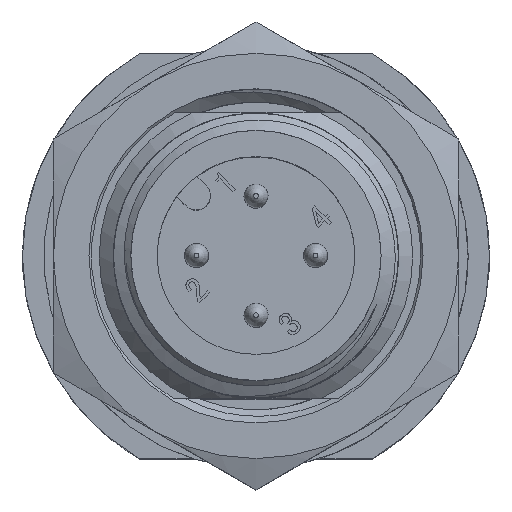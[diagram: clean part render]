
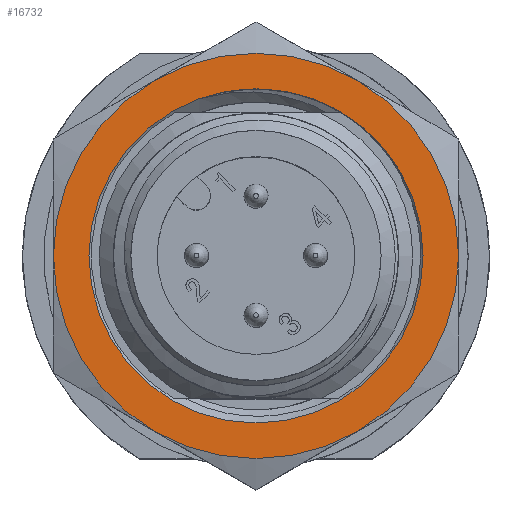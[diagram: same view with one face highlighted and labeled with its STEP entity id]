
A CAD part, top view. The second image highlights one B-rep face of the part: STEP entity #16732.
In plain terms, the highlighted planar face has unit normal (0, 0, 1).
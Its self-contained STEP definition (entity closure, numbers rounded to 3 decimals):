
#342 = VERTEX_POINT ( 'NONE', #20510 ) ;
#414 = CARTESIAN_POINT ( 'NONE',  ( -4.25, -7.361, -10.5 ) ) ;
#571 = CARTESIAN_POINT ( 'NONE',  ( 4.25, -7.361, -10.5 ) ) ;
#753 = VERTEX_POINT ( 'NONE', #19804 ) ;
#1132 = CIRCLE ( 'NONE', #9968, 8.5 ) ;
#1234 = CIRCLE ( 'NONE', #10083, 8.5 ) ;
#1335 = AXIS2_PLACEMENT_3D ( 'NONE', #18517, #6151, #18092 ) ;
#2012 = AXIS2_PLACEMENT_3D ( 'NONE', #19386, #21172, #7139 ) ;
#2560 = EDGE_CURVE ( 'NONE', #753, #753, #24298, .T. ) ;
#3165 = DIRECTION ( 'NONE',  ( 0., 0., 1. ) ) ;
#4128 = VERTEX_POINT ( 'NONE', #414 ) ;
#4637 = CARTESIAN_POINT ( 'NONE',  ( 8.5, 0., -10.5 ) ) ;
#4803 = VERTEX_POINT ( 'NONE', #4637 ) ;
#5499 = EDGE_CURVE ( 'NONE', #11777, #4128, #23270, .T. ) ;
#5837 = CARTESIAN_POINT ( 'NONE',  ( 0., 0., -10.5 ) ) ;
#6036 = FACE_BOUND ( 'NONE', #10875, .T. ) ;
#6151 = DIRECTION ( 'NONE',  ( 0., 0., 1. ) ) ;
#7139 = DIRECTION ( 'NONE',  ( 1., 0., 0. ) ) ;
#8051 = DIRECTION ( 'NONE',  ( 1., 0., 0. ) ) ;
#8225 = CARTESIAN_POINT ( 'NONE',  ( -8.5, 0., -10.5 ) ) ;
#9968 = AXIS2_PLACEMENT_3D ( 'NONE', #21695, #3165, #11471 ) ;
#10083 = AXIS2_PLACEMENT_3D ( 'NONE', #24481, #14322, #12357 ) ;
#10875 = EDGE_LOOP ( 'NONE', ( #18847 ) ) ;
#11006 = AXIS2_PLACEMENT_3D ( 'NONE', #26335, #11885, #18184 ) ;
#11471 = DIRECTION ( 'NONE',  ( 1., 0., 0. ) ) ;
#11505 = CIRCLE ( 'NONE', #1335, 8.5 ) ;
#11777 = VERTEX_POINT ( 'NONE', #8225 ) ;
#11885 = DIRECTION ( 'NONE',  ( 0., 0., 1. ) ) ;
#12171 = CARTESIAN_POINT ( 'NONE',  ( 0., 0., -10.5 ) ) ;
#12357 = DIRECTION ( 'NONE',  ( 1., 0., 0. ) ) ;
#13937 = CARTESIAN_POINT ( 'NONE',  ( 0., 0., -10.5 ) ) ;
#14262 = PLANE ( 'NONE',  #24724 ) ;
#14322 = DIRECTION ( 'NONE',  ( 0., 0., 1. ) ) ;
#14811 = AXIS2_PLACEMENT_3D ( 'NONE', #12171, #26545, #15978 ) ;
#15723 = ORIENTED_EDGE ( 'NONE', *, *, #17540, .T. ) ;
#15978 = DIRECTION ( 'NONE',  ( 1., 0., 0. ) ) ;
#16732 = ADVANCED_FACE ( 'NONE', ( #18940, #6036 ), #14262, .T. ) ;
#17313 = VERTEX_POINT ( 'NONE', #571 ) ;
#17378 = CARTESIAN_POINT ( 'NONE',  ( 4.25, 7.361, -10.5 ) ) ;
#17540 = EDGE_CURVE ( 'NONE', #4803, #26427, #1234, .T. ) ;
#18092 = DIRECTION ( 'NONE',  ( 1., 0., 0. ) ) ;
#18184 = DIRECTION ( 'NONE',  ( 1., 0., 0. ) ) ;
#18396 = ORIENTED_EDGE ( 'NONE', *, *, #22131, .T. ) ;
#18517 = CARTESIAN_POINT ( 'NONE',  ( 0., 0., -10.5 ) ) ;
#18847 = ORIENTED_EDGE ( 'NONE', *, *, #2560, .T. ) ;
#18940 = FACE_OUTER_BOUND ( 'NONE', #20309, .T. ) ;
#19386 = CARTESIAN_POINT ( 'NONE',  ( 0., 0., -10.5 ) ) ;
#19804 = CARTESIAN_POINT ( 'NONE',  ( 7.008, 0., -10.5 ) ) ;
#19815 = CIRCLE ( 'NONE', #14811, 8.5 ) ;
#20309 = EDGE_LOOP ( 'NONE', ( #26369, #15723, #24561, #18396, #20676, #23828 ) ) ;
#20510 = CARTESIAN_POINT ( 'NONE',  ( -4.25, 7.361, -10.5 ) ) ;
#20676 = ORIENTED_EDGE ( 'NONE', *, *, #5499, .T. ) ;
#21172 = DIRECTION ( 'NONE',  ( 0., 0., -1. ) ) ;
#21300 = EDGE_CURVE ( 'NONE', #26427, #342, #11505, .T. ) ;
#21695 = CARTESIAN_POINT ( 'NONE',  ( 0., 0., -10.5 ) ) ;
#22131 = EDGE_CURVE ( 'NONE', #342, #11777, #23012, .T. ) ;
#22311 = DIRECTION ( 'NONE',  ( 1., 0., 0. ) ) ;
#22358 = DIRECTION ( 'NONE',  ( 0., 0., 1. ) ) ;
#23012 = CIRCLE ( 'NONE', #11006, 8.5 ) ;
#23270 = CIRCLE ( 'NONE', #25554, 8.5 ) ;
#23828 = ORIENTED_EDGE ( 'NONE', *, *, #25793, .T. ) ;
#24298 = CIRCLE ( 'NONE', #2012, 7.008 ) ;
#24481 = CARTESIAN_POINT ( 'NONE',  ( 0., 0., -10.5 ) ) ;
#24484 = EDGE_CURVE ( 'NONE', #17313, #4803, #1132, .T. ) ;
#24561 = ORIENTED_EDGE ( 'NONE', *, *, #21300, .T. ) ;
#24724 = AXIS2_PLACEMENT_3D ( 'NONE', #13937, #22358, #8051 ) ;
#25554 = AXIS2_PLACEMENT_3D ( 'NONE', #5837, #26452, #22311 ) ;
#25793 = EDGE_CURVE ( 'NONE', #4128, #17313, #19815, .T. ) ;
#26335 = CARTESIAN_POINT ( 'NONE',  ( 0., 0., -10.5 ) ) ;
#26369 = ORIENTED_EDGE ( 'NONE', *, *, #24484, .T. ) ;
#26427 = VERTEX_POINT ( 'NONE', #17378 ) ;
#26452 = DIRECTION ( 'NONE',  ( 0., 0., 1. ) ) ;
#26545 = DIRECTION ( 'NONE',  ( 0., 0., 1. ) ) ;
